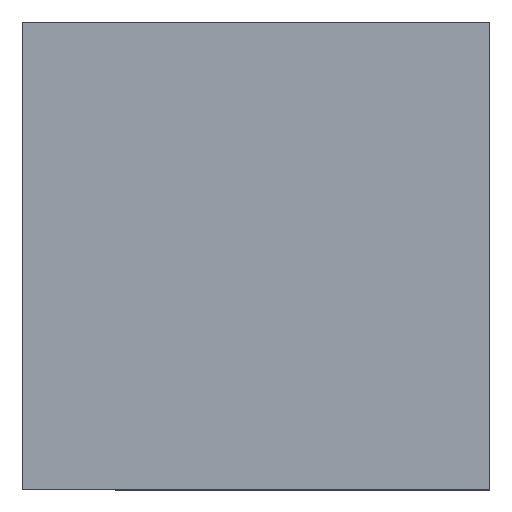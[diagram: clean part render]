
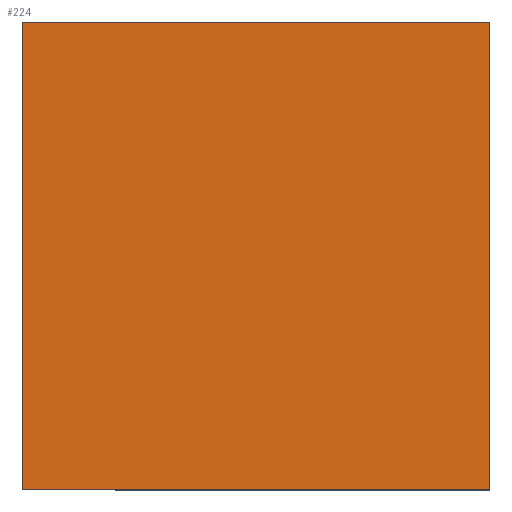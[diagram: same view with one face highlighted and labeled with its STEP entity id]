
A CAD part, top view. The second image highlights one B-rep face of the part: STEP entity #224.
In plain terms, the highlighted planar face has unit normal (0, 0, 1).
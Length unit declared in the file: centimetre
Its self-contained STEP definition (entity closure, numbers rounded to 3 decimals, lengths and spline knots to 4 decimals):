
#3 = FACE_OUTER_BOUND ( 'NONE', #349, .T. ) ;
#4 = VERTEX_POINT ( 'NONE', #63 ) ;
#20 = DIRECTION ( 'NONE',  ( 0., 0., 1. ) ) ;
#48 = CARTESIAN_POINT ( 'NONE',  ( 0., 0., 1000. ) ) ;
#63 = CARTESIAN_POINT ( 'NONE',  ( 0., 0., 1000. ) ) ;
#102 = LINE ( 'NONE', #173, #299 ) ;
#117 = ORIENTED_EDGE ( 'NONE', *, *, #364, .T. ) ;
#128 = VECTOR ( 'NONE', #315, 100. ) ;
#133 = LINE ( 'NONE', #200, #388 ) ;
#137 = DIRECTION ( 'NONE',  ( 0., -1., 0. ) ) ;
#173 = CARTESIAN_POINT ( 'NONE',  ( 1000., 1000., 1000. ) ) ;
#200 = CARTESIAN_POINT ( 'NONE',  ( 0., 1000., 1000. ) ) ;
#206 = DIRECTION ( 'NONE',  ( -1., 0., 0. ) ) ;
#223 = ORIENTED_EDGE ( 'NONE', *, *, #450, .T. ) ;
#224 = ADVANCED_FACE ( 'NONE', ( #3 ), #443, .T. ) ;
#225 = LINE ( 'NONE', #308, #257 ) ;
#257 = VECTOR ( 'NONE', #137, 100. ) ;
#269 = VERTEX_POINT ( 'NONE', #367 ) ;
#270 = ORIENTED_EDGE ( 'NONE', *, *, #339, .T. ) ;
#279 = CARTESIAN_POINT ( 'NONE',  ( 1000., 0., 1000. ) ) ;
#299 = VECTOR ( 'NONE', #306, 100. ) ;
#304 = CARTESIAN_POINT ( 'NONE',  ( 1000., 1000., 1000. ) ) ;
#306 = DIRECTION ( 'NONE',  ( 0., 1., 0. ) ) ;
#308 = CARTESIAN_POINT ( 'NONE',  ( 0., 1000., 1000. ) ) ;
#310 = AXIS2_PLACEMENT_3D ( 'NONE', #48, #20, #410 ) ;
#313 = LINE ( 'NONE', #419, #128 ) ;
#315 = DIRECTION ( 'NONE',  ( 1., 0., 0. ) ) ;
#327 = EDGE_CURVE ( 'NONE', #269, #4, #225, .T. ) ;
#339 = EDGE_CURVE ( 'NONE', #382, #413, #102, .T. ) ;
#349 = EDGE_LOOP ( 'NONE', ( #422, #117, #270, #223 ) ) ;
#364 = EDGE_CURVE ( 'NONE', #4, #382, #313, .T. ) ;
#367 = CARTESIAN_POINT ( 'NONE',  ( 0., 1000., 1000. ) ) ;
#382 = VERTEX_POINT ( 'NONE', #279 ) ;
#388 = VECTOR ( 'NONE', #206, 100. ) ;
#410 = DIRECTION ( 'NONE',  ( 1., 0., 0. ) ) ;
#413 = VERTEX_POINT ( 'NONE', #304 ) ;
#419 = CARTESIAN_POINT ( 'NONE',  ( 0., 0., 1000. ) ) ;
#422 = ORIENTED_EDGE ( 'NONE', *, *, #327, .T. ) ;
#443 = PLANE ( 'NONE',  #310 ) ;
#450 = EDGE_CURVE ( 'NONE', #413, #269, #133, .T. ) ;
